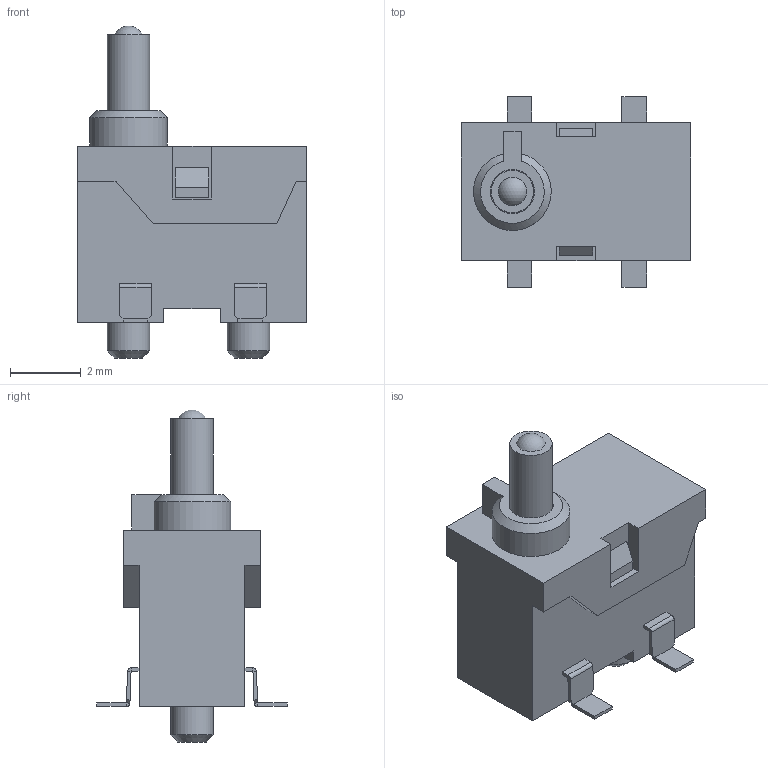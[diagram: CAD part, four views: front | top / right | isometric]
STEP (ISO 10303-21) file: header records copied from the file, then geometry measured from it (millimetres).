
FILE_DESCRIPTION (( 'STEP AP214' ), '1' );
FILE_NAME ('TE-M.STEP', '2020-02-12T06:39:24', ( '' ), ( '' ), 'SwSTEP 2.0', 'SolidWorks 2017', '' );
FILE_SCHEMA (( 'AUTOMOTIVE_DESIGN' ));
Length unit declared in the file: millimetre
Products named in the file (1): TE-M
Bounding box: 6.5 x 5.4 x 9.4 mm (x, y, z)
Volume: 111 mm3; surface area: 211.2 mm2
Topology: 1 solids, 1 shells, 169 faces, 391 edges, 236 vertices
Faces by surface type: plane 152, cylinder 13, cone 3, sphere 1
Full cylindrical faces by diameter (mm): 1.2 x3, 1.25 x1
Entity records: 6467 total; most frequent: CARTESIAN_POINT 797, ORIENTED_EDGE 764, DIRECTION 750, EDGE_CURVE 382, LINE 350, VECTOR 350, VERTEX_POINT 233, AXIS2_PLACEMENT_3D 200
